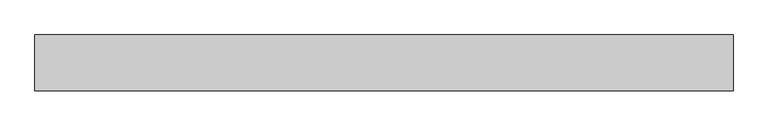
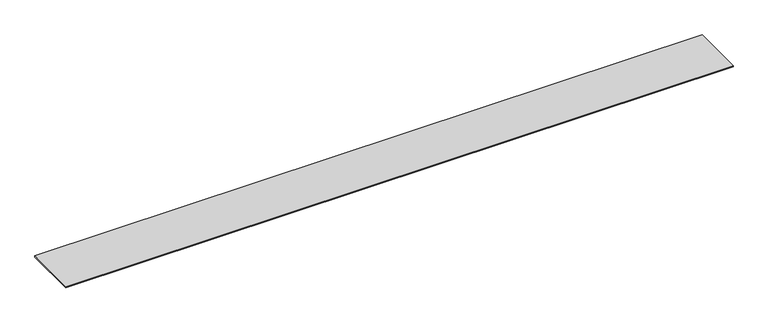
"""IFC4 building model written with IfcOpenShell, lengths in millimetres: beam geometry, Caillebotis 70429 : Caillebotis 70429."""

from ifc_helpers import new_model, si_unit, frame, origin, place, context, project, spatial, polyline, outline, extrude, source, transform, mapped, element, save


def beam_8d1f7939(model_context):
    return source(origin(), model_context, "Body", "SweptSolid", [
        extrude(outline(polyline([(15389.9999999, -23656.0), (15389.9999999, -24901.0), (-180.0000001, -24901.0), (-180.0000001, -23656.0), (15389.9999999, -23656.0)])), frame((0.0, 0.0, 8110.0), z_axis=(0.0, 0.0, 1.0), x_axis=(1.0, 0.0, 0.0)), (0.0, 0.0, 1.0), 30.0),
    ])


if __name__ == "__main__":
    model = new_model("IFC4")
    model_context = context("Model", 3, world=origin())
    ifc_project = project(units=[si_unit("LENGTHUNIT", "METRE", prefix="MILLI")], contexts=[model_context])
    site = spatial("IfcSite", under=ifc_project)
    building = spatial("IfcBuilding", under=site)
    placement = place(None, origin())
    beam_shape = beam_8d1f7939(model_context)
    element("IfcBeam", 1, ObjectType="Caillebotis 70429 : Caillebotis 70429", at=placement, inside=building, context=model_context, shape_type="MappedRepresentation", body=[
        mapped(beam_shape, transform((0.0, 0.0, 0.0), x_axis=(1.0, 0.0, 0.0), y_axis=(0.0, 1.0, 0.0), z_axis=(0.0, 0.0, 1.0))),
    ])
    save(model, "model.ifc")
